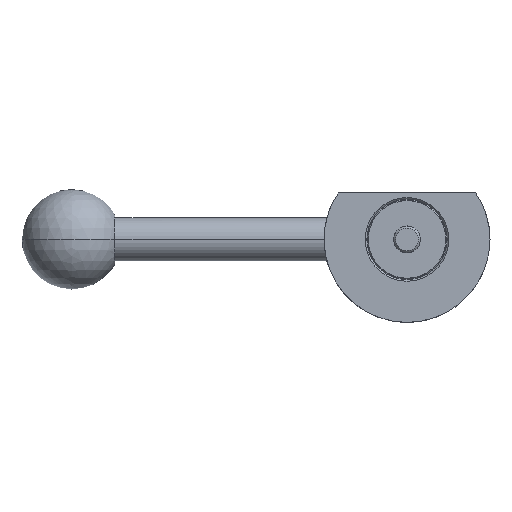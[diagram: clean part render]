
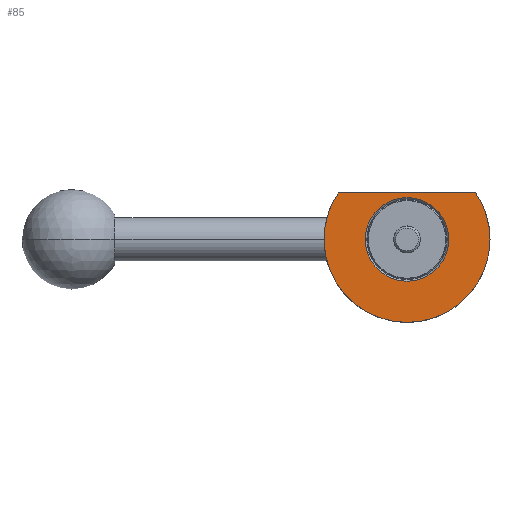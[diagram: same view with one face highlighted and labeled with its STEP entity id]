
A CAD part, front view. The second image highlights one B-rep face of the part: STEP entity #85.
In plain terms, the highlighted planar face has unit normal (0, -1, 0).
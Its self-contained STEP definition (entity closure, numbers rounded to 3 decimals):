
#29 = EDGE_LOOP ( 'NONE', ( #989, #58, #755, #1243 ) ) ;
#58 = ORIENTED_EDGE ( 'NONE', *, *, #1505, .T. ) ;
#69 = AXIS2_PLACEMENT_3D ( 'NONE', #609, #1701, #646 ) ;
#85 = ADVANCED_FACE ( 'NONE', ( #1359, #555 ), #1021, .T. ) ;
#126 = DIRECTION ( 'NONE',  ( 0., -1., 0. ) ) ;
#151 = AXIS2_PLACEMENT_3D ( 'NONE', #281, #265, #1201 ) ;
#182 = VERTEX_POINT ( 'NONE', #435 ) ;
#207 = EDGE_CURVE ( 'NONE', #1452, #1010, #745, .T. ) ;
#265 = DIRECTION ( 'NONE',  ( 0., 1., 0. ) ) ;
#281 = CARTESIAN_POINT ( 'NONE',  ( 0., -12., 0. ) ) ;
#301 = CARTESIAN_POINT ( 'NONE',  ( 0., -12., 0. ) ) ;
#321 = EDGE_CURVE ( 'NONE', #360, #182, #1729, .T. ) ;
#350 = VERTEX_POINT ( 'NONE', #1990 ) ;
#360 = VERTEX_POINT ( 'NONE', #1338 ) ;
#388 = DIRECTION ( 'NONE',  ( -1., 0., 0. ) ) ;
#435 = CARTESIAN_POINT ( 'NONE',  ( -20.712, -12., 14. ) ) ;
#480 = DIRECTION ( 'NONE',  ( 0., 1., 0. ) ) ;
#521 = AXIS2_PLACEMENT_3D ( 'NONE', #1059, #1662, #1525 ) ;
#555 = FACE_OUTER_BOUND ( 'NONE', #29, .T. ) ;
#576 = AXIS2_PLACEMENT_3D ( 'NONE', #1375, #1219, #1857 ) ;
#609 = CARTESIAN_POINT ( 'NONE',  ( 0., -12., 0. ) ) ;
#612 = VERTEX_POINT ( 'NONE', #1722 ) ;
#631 = VECTOR ( 'NONE', #388, 1000. ) ;
#646 = DIRECTION ( 'NONE',  ( -1., 0., 0. ) ) ;
#666 = LINE ( 'NONE', #1939, #631 ) ;
#709 = CIRCLE ( 'NONE', #151, 12.6 ) ;
#729 = ORIENTED_EDGE ( 'NONE', *, *, #1764, .T. ) ;
#745 = CIRCLE ( 'NONE', #69, 25. ) ;
#755 = ORIENTED_EDGE ( 'NONE', *, *, #321, .F. ) ;
#892 = AXIS2_PLACEMENT_3D ( 'NONE', #301, #480, #1079 ) ;
#989 = ORIENTED_EDGE ( 'NONE', *, *, #207, .F. ) ;
#1010 = VERTEX_POINT ( 'NONE', #1918 ) ;
#1017 = ORIENTED_EDGE ( 'NONE', *, *, #1644, .T. ) ;
#1021 = PLANE ( 'NONE',  #1383 ) ;
#1059 = CARTESIAN_POINT ( 'NONE',  ( 0., -12., 0. ) ) ;
#1079 = DIRECTION ( 'NONE',  ( -1., 0., 0. ) ) ;
#1201 = DIRECTION ( 'NONE',  ( -1., 0., 0. ) ) ;
#1210 = DIRECTION ( 'NONE',  ( 1., 0., 0. ) ) ;
#1218 = EDGE_CURVE ( 'NONE', #1010, #360, #1327, .T. ) ;
#1219 = DIRECTION ( 'NONE',  ( 0., 1., 0. ) ) ;
#1242 = CARTESIAN_POINT ( 'NONE',  ( 20.712, -12., 14. ) ) ;
#1243 = ORIENTED_EDGE ( 'NONE', *, *, #1218, .F. ) ;
#1248 = CIRCLE ( 'NONE', #892, 12.6 ) ;
#1327 = CIRCLE ( 'NONE', #521, 25. ) ;
#1338 = CARTESIAN_POINT ( 'NONE',  ( -25., -12., 0. ) ) ;
#1359 = FACE_BOUND ( 'NONE', #1563, .T. ) ;
#1375 = CARTESIAN_POINT ( 'NONE',  ( 0., -12., 0. ) ) ;
#1383 = AXIS2_PLACEMENT_3D ( 'NONE', #1969, #126, #1210 ) ;
#1452 = VERTEX_POINT ( 'NONE', #1242 ) ;
#1505 = EDGE_CURVE ( 'NONE', #1452, #182, #666, .T. ) ;
#1525 = DIRECTION ( 'NONE',  ( -1., 0., 0. ) ) ;
#1563 = EDGE_LOOP ( 'NONE', ( #729, #1017 ) ) ;
#1644 = EDGE_CURVE ( 'NONE', #350, #612, #709, .T. ) ;
#1662 = DIRECTION ( 'NONE',  ( 0., 1., 0. ) ) ;
#1701 = DIRECTION ( 'NONE',  ( 0., 1., 0. ) ) ;
#1722 = CARTESIAN_POINT ( 'NONE',  ( 12.6, -12., 0. ) ) ;
#1729 = CIRCLE ( 'NONE', #576, 25. ) ;
#1764 = EDGE_CURVE ( 'NONE', #612, #350, #1248, .T. ) ;
#1857 = DIRECTION ( 'NONE',  ( -1., 0., 0. ) ) ;
#1918 = CARTESIAN_POINT ( 'NONE',  ( 25., -12., 0. ) ) ;
#1939 = CARTESIAN_POINT ( 'NONE',  ( -12.6, -12., 14. ) ) ;
#1969 = CARTESIAN_POINT ( 'NONE',  ( -12.6, -12., 0. ) ) ;
#1990 = CARTESIAN_POINT ( 'NONE',  ( -12.6, -12., 0. ) ) ;
